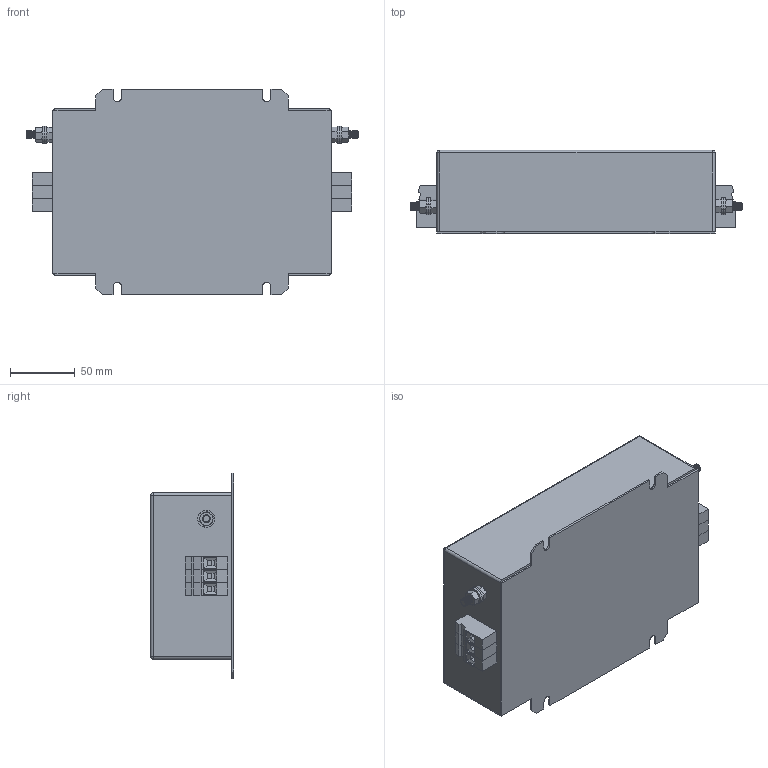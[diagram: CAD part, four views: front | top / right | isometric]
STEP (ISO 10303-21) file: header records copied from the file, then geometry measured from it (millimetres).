
FILE_DESCRIPTION (( 'STEP AP203' ), '1' );
FILE_NAME ('NF-36-FTK.STEP', '2024-04-18T16:03:51', ( '' ), ( '' ), 'SwSTEP 2.0', 'SolidWorks 2017', '' );
FILE_SCHEMA (( 'CONFIG_CONTROL_DESIGN' ));
Length unit declared in the file: millimetre
Products named in the file (8): hex nut style 1_am_B18.2.4.1M - Hex nut, Style 1,  M6 x 1 --D-N; hex screw_am_B18.6.7M - M6 x 1.0 x 16 Indented HHMS --16S; VDFK6x3; M6x16 Earth post; NF-36-FTK; flat washer narrow_am_B18.22M - Plain washer, 6 mm, narrow; VDFK-6
Assembly tree (12 placements, depth 3):
  NF-36-FTK
    NF-36-FTK
    VDFK6x3  x2
      VDFK-6
    M6x16 Earth post  x2
      flat washer narrow_am_B18.22M - Plain washer, 6 mm, narrow
      hex nut style 1_am_B18.2.4.1M - Hex nut, Style 1,  M6 x 1 --D-N
      hex screw_am_B18.6.7M - M6 x 1.0 x 16 Indented HHMS --16S
Bounding box: 255.4 x 64 x 158 mm (x, y, z)
Volume: 1749836.9 mm3; surface area: 199423.6 mm2
Topology: 16 solids, 16 shells, 696 faces, 1720 edges, 1080 vertices
Faces by surface type: plane 356, cylinder 168, cone 168, sphere 4
Entity records: 8987 total; most frequent: CARTESIAN_POINT 1529, DIRECTION 1453, ORIENTED_EDGE 1314, EDGE_CURVE 657, AXIS2_PLACEMENT_3D 552, VERTEX_POINT 412, LINE 349, VECTOR 349
